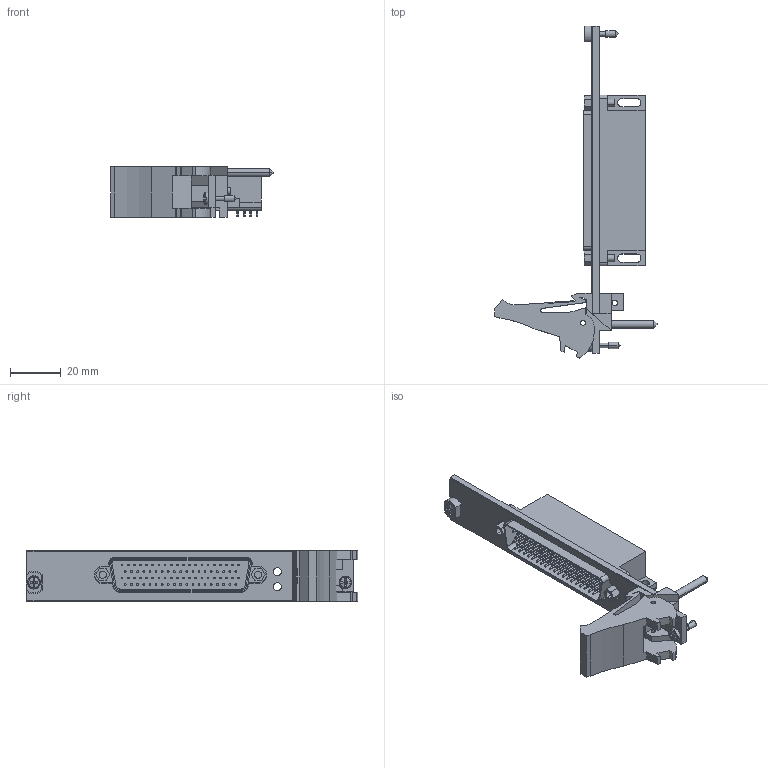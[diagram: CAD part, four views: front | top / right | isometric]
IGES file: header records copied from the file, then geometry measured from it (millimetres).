
Start section:  PTC IGES file: cu_pxi-2567.igs
Global section: file name: cu_pxi-2567.igs; native system: Pro/ENGINEER by Parametric Technology Corporation; preprocessor: 2006080; author: jjorden; organization: Unknown; date: 090908.125501; units: inch
Bounding box: 63.73 x 130.5 x 20.02 mm (x, y, z)
Surface area: 18133.9 mm2 (no closed solid volume)
Topology: 0 solids, 0 shells, 828 faces, 3784 edges, 3780 vertices
Faces by surface type: revolution 431, bspline 397
